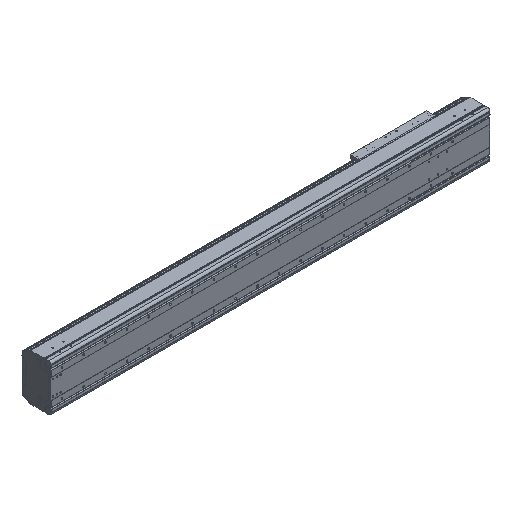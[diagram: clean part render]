
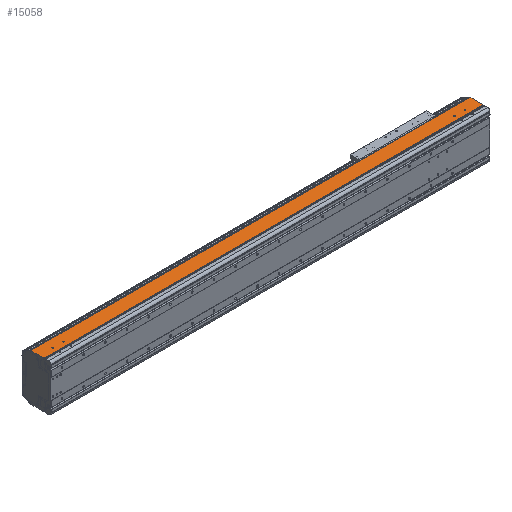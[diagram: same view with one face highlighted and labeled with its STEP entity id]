
A CAD part, isometric view. The second image highlights one B-rep face of the part: STEP entity #15058.
In plain terms, the highlighted planar face has unit normal (0, 0, 1).
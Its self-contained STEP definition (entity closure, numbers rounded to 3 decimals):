
#1840=DIRECTION('',(0.,-1.,0.));
#1841=VECTOR('',#1840,2.55);
#1842=CARTESIAN_POINT('',(0.,34.65,107.));
#1843=LINE('',#1842,#1841);
#2323=DIRECTION('',(1.,0.,0.));
#2324=VECTOR('',#2323,2.);
#2325=CARTESIAN_POINT('',(-2021.,34.65,107.));
#2326=LINE('',#2325,#2324);
#2327=CARTESIAN_POINT('',(-59.5,54.,107.));
#2328=DIRECTION('',(0.,0.,-1.));
#2329=DIRECTION('',(1.,0.,0.));
#2330=AXIS2_PLACEMENT_3D('',#2327,#2328,#2329);
#2332=CARTESIAN_POINT('',(-59.5,54.,107.));
#2333=DIRECTION('',(0.,0.,-1.));
#2334=DIRECTION('',(-1.,0.,0.));
#2335=AXIS2_PLACEMENT_3D('',#2332,#2333,#2334);
#2337=CARTESIAN_POINT('',(-109.5,54.,107.));
#2338=DIRECTION('',(0.,0.,-1.));
#2339=DIRECTION('',(1.,0.,0.));
#2340=AXIS2_PLACEMENT_3D('',#2337,#2338,#2339);
#2342=CARTESIAN_POINT('',(-109.5,54.,107.));
#2343=DIRECTION('',(0.,0.,-1.));
#2344=DIRECTION('',(-1.,0.,0.));
#2345=AXIS2_PLACEMENT_3D('',#2342,#2343,#2344);
#2347=CARTESIAN_POINT('',(-1959.5,54.,107.));
#2348=DIRECTION('',(0.,0.,-1.));
#2349=DIRECTION('',(1.,0.,0.));
#2350=AXIS2_PLACEMENT_3D('',#2347,#2348,#2349);
#2352=CARTESIAN_POINT('',(-1959.5,54.,107.));
#2353=DIRECTION('',(0.,0.,-1.));
#2354=DIRECTION('',(-1.,0.,0.));
#2355=AXIS2_PLACEMENT_3D('',#2352,#2353,#2354);
#2357=CARTESIAN_POINT('',(-1909.5,54.,107.));
#2358=DIRECTION('',(0.,0.,-1.));
#2359=DIRECTION('',(1.,0.,0.));
#2360=AXIS2_PLACEMENT_3D('',#2357,#2358,#2359);
#2362=CARTESIAN_POINT('',(-1909.5,54.,107.));
#2363=DIRECTION('',(0.,0.,-1.));
#2364=DIRECTION('',(-1.,0.,0.));
#2365=AXIS2_PLACEMENT_3D('',#2362,#2363,#2364);
#2367=DIRECTION('',(0.,-1.,0.));
#2368=VECTOR('',#2367,2.55);
#2369=CARTESIAN_POINT('',(-2019.,34.65,107.));
#2370=LINE('',#2369,#2368);
#2371=DIRECTION('',(0.,-1.,0.));
#2372=VECTOR('',#2371,58.85);
#2373=CARTESIAN_POINT('',(-2021.,93.5,107.));
#2374=LINE('',#2373,#2372);
#2375=DIRECTION('',(0.,1.,0.));
#2376=VECTOR('',#2375,58.85);
#2377=CARTESIAN_POINT('',(2.,34.65,107.));
#2378=LINE('',#2377,#2376);
#2379=DIRECTION('',(1.,0.,0.));
#2380=VECTOR('',#2379,2019.);
#2381=CARTESIAN_POINT('',(-2019.,32.1,107.));
#2382=LINE('',#2381,#2380);
#2487=DIRECTION('',(-1.,0.,0.));
#2488=VECTOR('',#2487,2023.);
#2489=CARTESIAN_POINT('',(2.,93.5,107.));
#2490=LINE('',#2489,#2488);
#8253=DIRECTION('',(1.,0.,0.));
#8254=VECTOR('',#8253,2.);
#8255=CARTESIAN_POINT('',(0.,34.65,107.));
#8256=LINE('',#8255,#8254);
#9401=CARTESIAN_POINT('',(-2021.,34.65,107.));
#9402=VERTEX_POINT('',#9401);
#9403=CARTESIAN_POINT('',(-2021.,93.5,107.));
#9404=VERTEX_POINT('',#9403);
#9633=CARTESIAN_POINT('',(-2019.,32.1,107.));
#9634=VERTEX_POINT('',#9633);
#9981=CARTESIAN_POINT('',(0.,32.1,107.));
#9982=VERTEX_POINT('',#9981);
#9983=CARTESIAN_POINT('',(-57.,54.,107.));
#9984=CARTESIAN_POINT('',(-62.,54.,107.));
#9985=VERTEX_POINT('',#9983);
#9986=VERTEX_POINT('',#9984);
#9987=CARTESIAN_POINT('',(-107.,54.,107.));
#9988=CARTESIAN_POINT('',(-112.,54.,107.));
#9989=VERTEX_POINT('',#9987);
#9990=VERTEX_POINT('',#9988);
#9991=CARTESIAN_POINT('',(-1957.,54.,107.));
#9992=CARTESIAN_POINT('',(-1962.,54.,107.));
#9993=VERTEX_POINT('',#9991);
#9994=VERTEX_POINT('',#9992);
#9995=CARTESIAN_POINT('',(-1907.,54.,107.));
#9996=CARTESIAN_POINT('',(-1912.,54.,107.));
#9997=VERTEX_POINT('',#9995);
#9998=VERTEX_POINT('',#9996);
#10882=CARTESIAN_POINT('',(2.,34.65,107.));
#10883=VERTEX_POINT('',#10882);
#10884=CARTESIAN_POINT('',(2.,93.5,107.));
#10885=VERTEX_POINT('',#10884);
#11336=CARTESIAN_POINT('',(0.,34.65,107.));
#11337=VERTEX_POINT('',#11336);
#11416=CARTESIAN_POINT('',(-2019.,34.65,107.));
#11417=VERTEX_POINT('',#11416);
#15016=CARTESIAN_POINT('',(-1009.5,62.8,107.));
#15017=DIRECTION('',(0.,0.,1.));
#15018=DIRECTION('',(0.,-1.,0.));
#15019=AXIS2_PLACEMENT_3D('',#15016,#15017,#15018);
#15020=PLANE('',#15019);
#15021=ORIENTED_EDGE('',*,*,#12502,.F.);
#15022=ORIENTED_EDGE('',*,*,#15011,.F.);
#15023=ORIENTED_EDGE('',*,*,#13131,.F.);
#15025=ORIENTED_EDGE('',*,*,#15024,.F.);
#15026=ORIENTED_EDGE('',*,*,#12239,.F.);
#15028=ORIENTED_EDGE('',*,*,#15027,.F.);
#15029=ORIENTED_EDGE('',*,*,#14619,.T.);
#15031=ORIENTED_EDGE('',*,*,#15030,.F.);
#15032=EDGE_LOOP('',(#15021,#15022,#15023,#15025,#15026,#15028,#15029,#15031));
#15033=FACE_OUTER_BOUND('',#15032,.F.);
#15035=ORIENTED_EDGE('',*,*,#15034,.F.);
#15037=ORIENTED_EDGE('',*,*,#15036,.F.);
#15038=EDGE_LOOP('',(#15035,#15037));
#15039=FACE_BOUND('',#15038,.F.);
#15041=ORIENTED_EDGE('',*,*,#15040,.F.);
#15043=ORIENTED_EDGE('',*,*,#15042,.F.);
#15044=EDGE_LOOP('',(#15041,#15043));
#15045=FACE_BOUND('',#15044,.F.);
#15047=ORIENTED_EDGE('',*,*,#15046,.F.);
#15049=ORIENTED_EDGE('',*,*,#15048,.F.);
#15050=EDGE_LOOP('',(#15047,#15049));
#15051=FACE_BOUND('',#15050,.F.);
#15053=ORIENTED_EDGE('',*,*,#15052,.F.);
#15055=ORIENTED_EDGE('',*,*,#15054,.F.);
#15056=EDGE_LOOP('',(#15053,#15055));
#15057=FACE_BOUND('',#15056,.F.);
#15058=ADVANCED_FACE('',(#15033,#15039,#15045,#15051,#15057),#15020,.T.);
#2331=CIRCLE('',#2330,2.5);
#2336=CIRCLE('',#2335,2.5);
#2341=CIRCLE('',#2340,2.5);
#2346=CIRCLE('',#2345,2.5);
#2351=CIRCLE('',#2350,2.5);
#2356=CIRCLE('',#2355,2.5);
#2361=CIRCLE('',#2360,2.5);
#2366=CIRCLE('',#2365,2.5);
#12239=EDGE_CURVE('',#10883,#10885,#2378,.T.);
#12502=EDGE_CURVE('',#11417,#9634,#2370,.T.);
#13131=EDGE_CURVE('',#9404,#9402,#2374,.T.);
#14619=EDGE_CURVE('',#11337,#9982,#1843,.T.);
#15011=EDGE_CURVE('',#9402,#11417,#2326,.T.);
#15024=EDGE_CURVE('',#10885,#9404,#2490,.T.);
#15027=EDGE_CURVE('',#11337,#10883,#8256,.T.);
#15030=EDGE_CURVE('',#9634,#9982,#2382,.T.);
#15034=EDGE_CURVE('',#9989,#9990,#2341,.T.);
#15036=EDGE_CURVE('',#9990,#9989,#2346,.T.);
#15040=EDGE_CURVE('',#9993,#9994,#2351,.T.);
#15042=EDGE_CURVE('',#9994,#9993,#2356,.T.);
#15046=EDGE_CURVE('',#9997,#9998,#2361,.T.);
#15048=EDGE_CURVE('',#9998,#9997,#2366,.T.);
#15052=EDGE_CURVE('',#9985,#9986,#2331,.T.);
#15054=EDGE_CURVE('',#9986,#9985,#2336,.T.);
